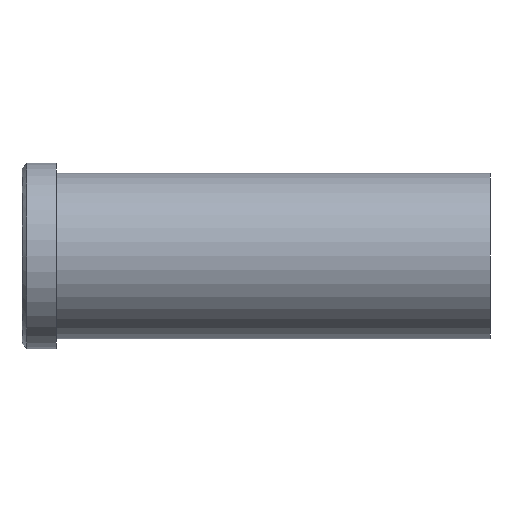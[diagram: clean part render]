
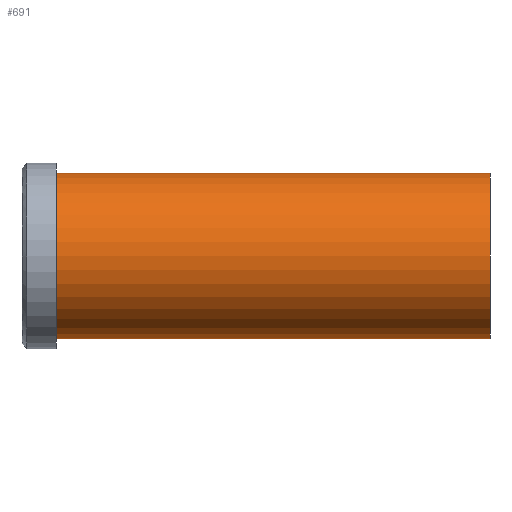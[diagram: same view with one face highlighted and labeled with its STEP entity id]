
A CAD part, front view. The second image highlights one B-rep face of the part: STEP entity #691.
In plain terms, the highlighted cylindrical face has radius 17 mm (diameter 34 mm), a partial arc.
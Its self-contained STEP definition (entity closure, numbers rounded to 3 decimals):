
#501=CARTESIAN_POINT('Vertex',(0.,0.,-17.)) ;
#506=CARTESIAN_POINT('Axis2P3D Location',(0.,0.,0.)) ;
#510=CARTESIAN_POINT('Vertex',(0.,-17.,0.)) ;
#513=CARTESIAN_POINT('Axis2P3D Location',(0.,0.,0.)) ;
#517=CARTESIAN_POINT('Vertex',(0.,0.,17.)) ;
#631=CARTESIAN_POINT('Line Origine',(89.,0.,17.)) ;
#635=CARTESIAN_POINT('Vertex',(89.,0.,17.)) ;
#649=CARTESIAN_POINT('Vertex',(89.,0.,-17.)) ;
#652=CARTESIAN_POINT('Line Origine',(89.,0.,-17.)) ;
#666=CARTESIAN_POINT('Axis2P3D Location',(89.,0.,0.)) ;
#671=CARTESIAN_POINT('Axis2P3D Location',(89.,0.,0.)) ;
#675=CARTESIAN_POINT('Vertex',(89.,-17.,0.)) ;
#678=CARTESIAN_POINT('Axis2P3D Location',(89.,0.,0.)) ;
#507=DIRECTION('Axis2P3D Direction',(1.,0.,-0.)) ;
#514=DIRECTION('Axis2P3D Direction',(1.,0.,-0.)) ;
#632=DIRECTION('Vector Direction',(-1.,0.,0.)) ;
#653=DIRECTION('Vector Direction',(-1.,0.,0.)) ;
#667=DIRECTION('Axis2P3D Direction',(-1.,-0.,-0.)) ;
#668=DIRECTION('Axis2P3D XDirection',(0.,0.,-1.)) ;
#672=DIRECTION('Axis2P3D Direction',(-1.,-0.,-0.)) ;
#679=DIRECTION('Axis2P3D Direction',(-1.,-0.,-0.)) ;
#508=AXIS2_PLACEMENT_3D('Circle Axis2P3D',#506,#507,$) ;
#515=AXIS2_PLACEMENT_3D('Circle Axis2P3D',#513,#514,$) ;
#669=AXIS2_PLACEMENT_3D('Cylinder Axis2P3D',#666,#667,#668) ;
#673=AXIS2_PLACEMENT_3D('Circle Axis2P3D',#671,#672,$) ;
#680=AXIS2_PLACEMENT_3D('Circle Axis2P3D',#678,#679,$) ;
#684=ORIENTED_EDGE('',*,*,#656,.T.) ;
#685=ORIENTED_EDGE('',*,*,#677,.F.) ;
#686=ORIENTED_EDGE('',*,*,#682,.F.) ;
#687=ORIENTED_EDGE('',*,*,#637,.T.) ;
#688=ORIENTED_EDGE('',*,*,#519,.T.) ;
#689=ORIENTED_EDGE('',*,*,#512,.T.) ;
#633=VECTOR('Line Direction',#632,1.) ;
#654=VECTOR('Line Direction',#653,1.) ;
#691=ADVANCED_FACE('353-25X96',(#690),#670,.T.) ;
#509=CIRCLE('generated circle',#508,17.) ;
#516=CIRCLE('generated circle',#515,17.) ;
#674=CIRCLE('generated circle',#673,17.) ;
#681=CIRCLE('generated circle',#680,17.) ;
#670=CYLINDRICAL_SURFACE('generated cylinder',#669,17.) ;
#512=EDGE_CURVE('',#511,#502,#509,.T.) ;
#519=EDGE_CURVE('',#518,#511,#516,.T.) ;
#637=EDGE_CURVE('',#636,#518,#634,.T.) ;
#656=EDGE_CURVE('',#502,#650,#655,.F.) ;
#677=EDGE_CURVE('',#676,#650,#674,.F.) ;
#682=EDGE_CURVE('',#636,#676,#681,.F.) ;
#683=EDGE_LOOP('',(#684,#685,#686,#687,#688,#689)) ;
#690=FACE_OUTER_BOUND('',#683,.T.) ;
#634=LINE('Line',#631,#633) ;
#655=LINE('Line',#652,#654) ;
#502=VERTEX_POINT('',#501) ;
#511=VERTEX_POINT('',#510) ;
#518=VERTEX_POINT('',#517) ;
#636=VERTEX_POINT('',#635) ;
#650=VERTEX_POINT('',#649) ;
#676=VERTEX_POINT('',#675) ;
